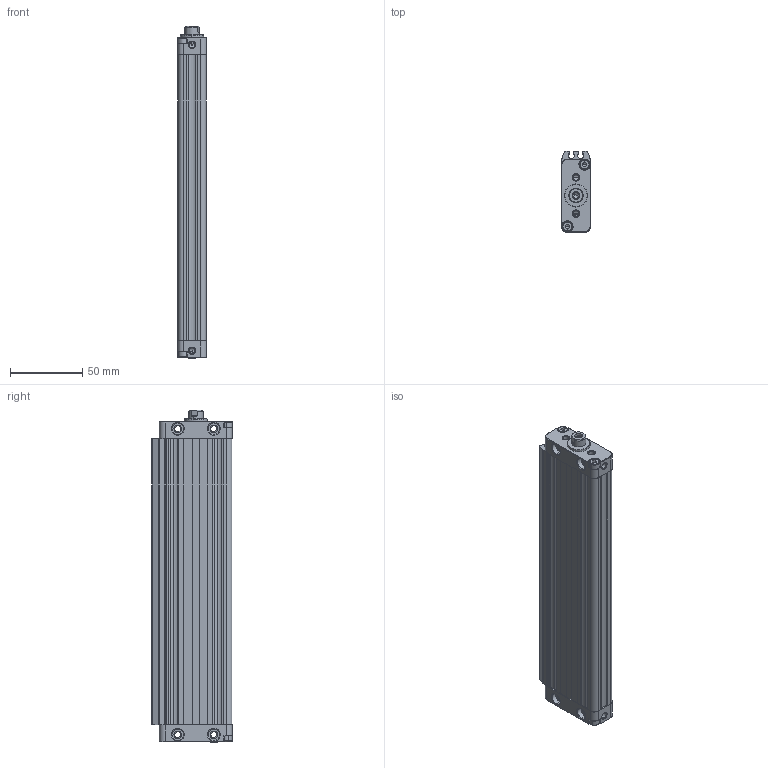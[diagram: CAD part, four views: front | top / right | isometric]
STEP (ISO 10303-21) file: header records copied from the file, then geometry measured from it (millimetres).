
FILE_DESCRIPTION (( 'STEP AP214' ), '1' );
FILE_NAME ('WOC-025-0160 (3D).STEP', '2020-05-20T15:16:18', ( '' ), ( '' ), 'SwSTEP 2.0', 'SolidWorks 2016', '' );
FILE_SCHEMA (( 'AUTOMOTIVE_DESIGN' ));
Length unit declared in the file: millimetre
Products named in the file (5): Group2^WOC-025-0160 (3D); Group3^WOC-025-0160 (3D); WOC-025-0160 (3D); Group4^WOC-025-0160 (3D); Group1^WOC-025-0160 (3D)
Assembly tree (4 placements, depth 2):
  WOC-025-0160 (3D)
    Group1^WOC-025-0160 (3D)
    Group2^WOC-025-0160 (3D)
    Group3^WOC-025-0160 (3D)
    Group4^WOC-025-0160 (3D)
Bounding box: 20 x 55.75 x 230 mm (x, y, z)
Volume: 152052.5 mm3; surface area: 71694.4 mm2
Topology: 10 solids, 10 shells, 634 faces, 1603 edges, 1021 vertices
Faces by surface type: plane 312, cylinder 141, bspline 91, cone 90
Entity records: 25904 total; most frequent: CARTESIAN_POINT 8817, ORIENTED_EDGE 3182, DIRECTION 2844, EDGE_CURVE 1591, VERTEX_POINT 1021, LINE 990, VECTOR 990, AXIS2_PLACEMENT_3D 927
